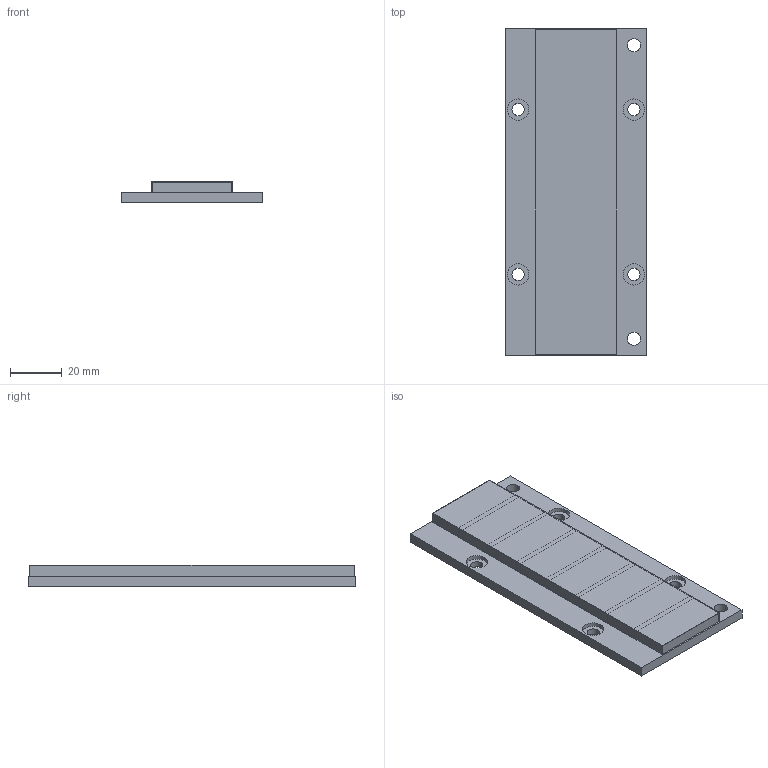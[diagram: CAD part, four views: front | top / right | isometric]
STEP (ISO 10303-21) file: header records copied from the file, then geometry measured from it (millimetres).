
FILE_DESCRIPTION((''),'2;1');
FILE_NAME('MCD030_128_001_','2007-01-13T',('Sendhil_kk'),('Kollmorgen'),'PRO/ENGINEER BY PARAMETRIC TECHNOLOGY CORPORATION, 2006080','PRO/ENGINEER BY PARAMETRIC TECHNOLOGY CORPORATION, 2006080','');
FILE_SCHEMA(('CONFIG_CONTROL_DESIGN'));
Length unit declared in the file: millimetre
Products named in the file (1): MCD030_128_001_
Bounding box: 55 x 127.3 x 8.25 mm (x, y, z)
Volume: 42215 mm3; surface area: 28502.3 mm2
Topology: 1 solids, 1 shells, 78 faces, 192 edges, 128 vertices
Faces by surface type: plane 58, cylinder 20
Entity records: 2362 total; most frequent: CARTESIAN_POINT 398, DIRECTION 388, ORIENTED_EDGE 384, EDGE_CURVE 192, VECTOR 152, LINE 152, VERTEX_POINT 128, AXIS2_PLACEMENT_3D 118
